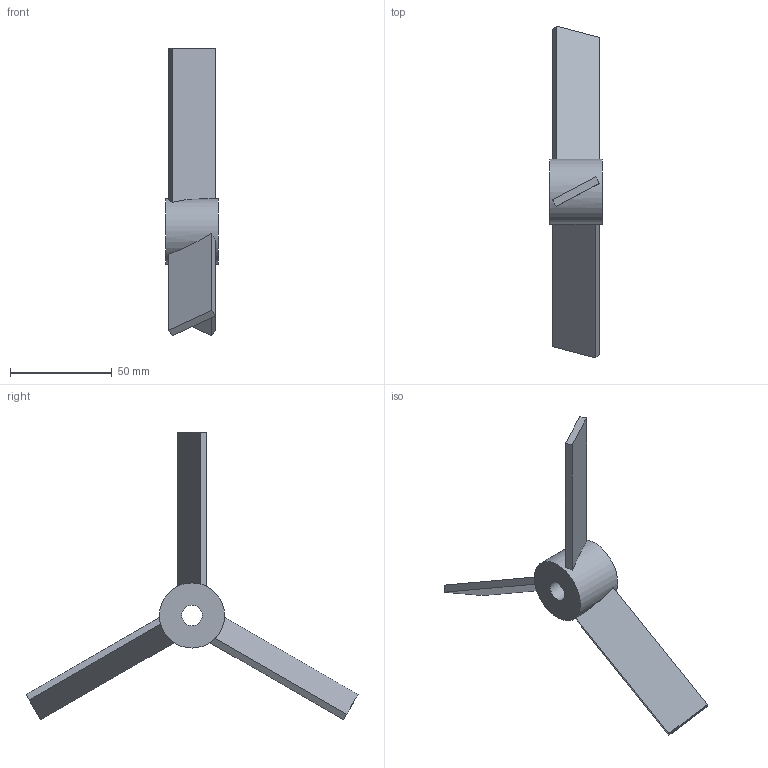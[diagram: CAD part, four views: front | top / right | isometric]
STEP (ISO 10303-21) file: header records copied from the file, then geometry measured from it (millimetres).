
FILE_DESCRIPTION(('Open CASCADE Model'),'2;1');
FILE_NAME('Open CASCADE Shape Model','2026-11-23T20:25:51',('Author'),( 'Open CASCADE'),'Open CASCADE STEP processor 7.9','Open CASCADE 7.9' ,'Unknown');
FILE_SCHEMA(('AUTOMOTIVE_DESIGN { 1 0 10303 214 1 1 1 1 }'));
Length unit declared in the file: millimetre
Products named in the file (1): Open CASCADE STEP translator 7.9 26
Bounding box: 26 x 163.06 x 141.22 mm (x, y, z)
Volume: 37608 mm3; surface area: 17168.2 mm2
Topology: 1 solids, 1 shells, 19 faces, 42 edges, 28 vertices
Faces by surface type: plane 17, cylinder 2
Full cylindrical faces by diameter (mm): 10 x1, 32 x1
Entity records: 1146 total; most frequent: CARTESIAN_POINT 258, DIRECTION 168, ORIENTED_EDGE 84, PCURVE 84, DEFINITIONAL_REPRESENTATION 84, LINE 82, VECTOR 82, EDGE_CURVE 42
